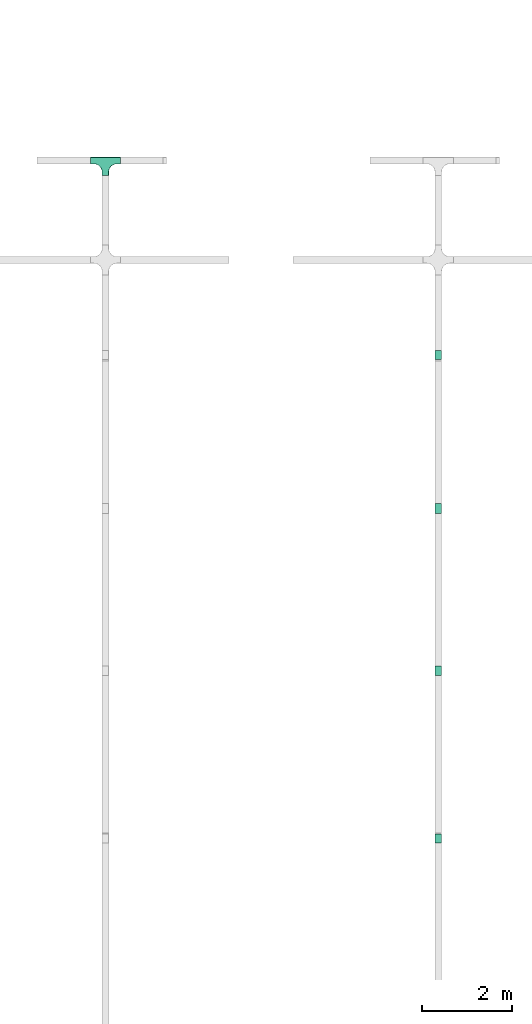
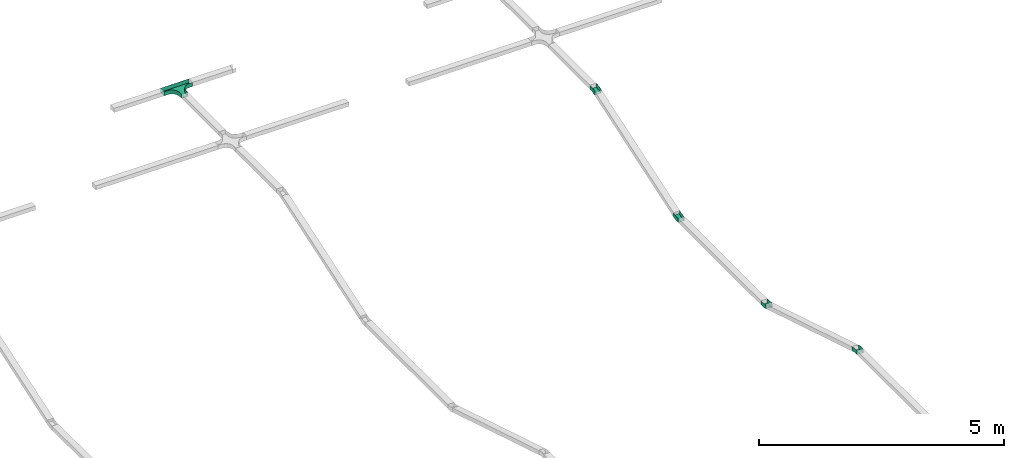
# One storey, part 44 of 197: 5 flow fittings.
"""IFC2X3 building model written with IfcOpenShell, lengths in metres."""

from ifc_helpers import new_model, entity, si_unit, converted_unit, direction, frame, origin, place, context, subcontext, project, spatial, faceted_brep, source, transform, mapped, material, type_object, type_shapes, element, save


model = new_model("IFC2X3")

# Units and contexts
model_context = context("Model", 3, precision=1e-05, world=origin(), true_north=direction((6.123031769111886e-17, 1.0)))
body_context = subcontext(model_context, "Body", "Model", "MODEL_VIEW")
ifc_project = project(units=[si_unit("LENGTHUNIT", "METRE"), converted_unit("PLANEANGLEUNIT", "DEGREE", entity("IfcPlaneAngleMeasure", 0.017453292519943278), si_unit("PLANEANGLEUNIT", "RADIAN"), dimensions=[0, 0, 0, 0, 0, 0, 0]), si_unit("AREAUNIT", "SQUARE_METRE")], contexts=[model_context])

# Site, building, storey
site_placement = place(None, origin())
site = spatial("IfcSite", under=ifc_project, at=site_placement, Name="Default", CompositionType="ELEMENT")
building_placement = place(site_placement, origin())
building = spatial("IfcBuilding", under=site, at=building_placement, CompositionType="ELEMENT")
storey_placement = place(building_placement, origin())
storey = spatial("IfcBuildingStorey", under=building, at=storey_placement, Name="Niveau 0", CompositionType="ELEMENT", Elevation=0.0)

# Flow fittings
ifc_material = material(Name="<Unnamed>")
cable_carrier_fitting_type_1 = type_object("IfcCableCarrierFittingType", Name="Chemin de câbles - Té:CDC INCENDIE", PredefinedType="NOTDEFINED", material=ifc_material)
shared_shape_1 = source(origin(), body_context, "Body", "Brep", [
    faceted_brep([(0.2084125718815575, -0.08113335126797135, 0.04999999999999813), (0.25500000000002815, -0.07500000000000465, 0.04999999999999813), (0.33500000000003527, -0.07500000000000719, 0.04999999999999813), (0.33500000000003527, -0.07246000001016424, 0.04999999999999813), (0.25500000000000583, -0.07246000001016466, 0.04999999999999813), (0.20775517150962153, -0.07867989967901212, 0.04999999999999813), (0.16373000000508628, -0.09691572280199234, 0.04999999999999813), (0.12592472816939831, -0.12592472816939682, 0.04999999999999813), (0.09691572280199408, -0.16373000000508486, 0.04999999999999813), (0.07867989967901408, -0.2077551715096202, 0.04999999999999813), (0.0724600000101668, -0.2550000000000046, 0.04999999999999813), (0.0724600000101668, -0.3350000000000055, 0.04999999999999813), (0.07500000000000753, -0.3350000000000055, 0.04999999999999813), (0.07500000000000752, -0.2550000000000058, 0.04999999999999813), (0.08113335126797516, -0.20841257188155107, 0.04999999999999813), (0.09911542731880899, -0.16500000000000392, 0.04999999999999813), (0.12772077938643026, -0.12772077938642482, 0.04999999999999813), (0.16500000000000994, -0.09911542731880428, 0.04999999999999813), (-0.25499999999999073, -0.07246000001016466, 0.04999999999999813), (-0.3349999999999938, -0.07246000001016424, 0.04999999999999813), (-0.3349999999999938, -0.07500000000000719, 0.04999999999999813), (-0.25499999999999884, -0.07500000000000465, 0.04999999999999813), (-0.20841257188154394, -0.08113335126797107, 0.04999999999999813), (-0.16499999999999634, -0.09911542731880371, 0.04999999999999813), (-0.12772077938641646, -0.12772077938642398, 0.04999999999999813), (-0.09911542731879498, -0.16500000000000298, 0.04999999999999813), (-0.08113335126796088, -0.20841257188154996, 0.04999999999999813), (-0.07499999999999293, -0.2550000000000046, 0.04999999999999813), (-0.07499999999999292, -0.3350000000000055, 0.04999999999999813), (-0.07246000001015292, -0.3350000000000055, 0.04999999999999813), (-0.0724600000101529, -0.25500000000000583, 0.04999999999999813), (-0.07867989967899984, -0.20775517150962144, 0.04999999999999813), (-0.09691572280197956, -0.1637300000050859, 0.04999999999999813), (-0.12592472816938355, -0.12592472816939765, 0.04999999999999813), (-0.16373000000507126, -0.096915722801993, 0.04999999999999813), (-0.20775517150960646, -0.07867989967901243, 0.04999999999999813), (0.33500000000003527, 0.0749999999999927, 0.04999999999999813), (-0.3349999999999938, 0.0749999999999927, 0.04999999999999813), (-0.33499999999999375, 0.0724600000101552, 0.04999999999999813), (0.33500000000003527, 0.0724600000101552, 0.04999999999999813), (-0.07499999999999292, -0.3350000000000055, -0.05000000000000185), (-0.07499999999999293, -0.2550000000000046, -0.05000000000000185), (-0.08113335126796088, -0.20841257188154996, -0.05000000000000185), (-0.09911542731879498, -0.16500000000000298, -0.05000000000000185), (-0.12772077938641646, -0.12772077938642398, -0.05000000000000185), (-0.16499999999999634, -0.09911542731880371, -0.05000000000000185), (-0.20841257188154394, -0.08113335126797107, -0.05000000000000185), (-0.2549999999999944, -0.07500000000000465, -0.05000000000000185), (-0.3349999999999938, -0.07500000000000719, -0.05000000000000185), (-0.3349999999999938, 0.0749999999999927, -0.05000000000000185), (0.33500000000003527, 0.0749999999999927, -0.05000000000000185), (0.33500000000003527, -0.07500000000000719, -0.05000000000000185), (0.25500000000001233, -0.07500000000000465, -0.05000000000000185), (0.2084125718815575, -0.08113335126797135, -0.05000000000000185), (0.16500000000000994, -0.09911542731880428, -0.05000000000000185), (0.12772077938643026, -0.12772077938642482, -0.05000000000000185), (0.09911542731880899, -0.16500000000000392, -0.05000000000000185), (0.08113335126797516, -0.20841257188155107, -0.05000000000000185), (0.07500000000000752, -0.2550000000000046, -0.05000000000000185), (0.07500000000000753, -0.3350000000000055, -0.05000000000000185), (-0.07499999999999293, -0.2550000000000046, -0.04746000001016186), (0.07246000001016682, -0.3350000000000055, -0.04746000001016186), (-0.07246000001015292, -0.3350000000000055, -0.047460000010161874), (-0.07246000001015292, -0.25500000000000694, -0.047460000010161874), (-0.07867989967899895, -0.20775517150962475, -0.04746000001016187), (-0.09691572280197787, -0.16373000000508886, -0.04746000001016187), (-0.12592472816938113, -0.12592472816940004, -0.04746000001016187), (-0.16373000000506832, -0.09691572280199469, -0.04746000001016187), (-0.20775517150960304, -0.07867989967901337, -0.04746000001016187), (-0.25499999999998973, -0.07246000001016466, -0.04746000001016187), (-0.3349999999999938, -0.07246000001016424, -0.047460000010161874), (0.33500000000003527, -0.07246000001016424, -0.047460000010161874), (0.25500000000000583, -0.07246000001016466, -0.047460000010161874), (-0.3349999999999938, 0.0724600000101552, -0.047460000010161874), (-0.255, -0.07500000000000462, -0.047460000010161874), (0.255000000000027, -0.07500000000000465, -0.04746000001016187), (0.07500000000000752, -0.2550000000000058, -0.04746000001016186), (0.33500000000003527, 0.0724600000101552, -0.04746000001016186), (0.2077551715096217, -0.07867989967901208, -0.04746000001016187), (0.16373000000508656, -0.09691572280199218, -0.04746000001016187), (0.12592472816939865, -0.12592472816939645, -0.04746000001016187), (0.09691572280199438, -0.1637300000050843, -0.04746000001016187), (0.07867989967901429, -0.20775517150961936, -0.04746000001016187), (0.07246000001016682, -0.2550000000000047, -0.04746000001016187)], [[[0, 1, 2, 3, 4, 5, 6, 7, 8, 9, 10, 11, 12, 13, 14, 15, 16, 17]], [[18, 19, 20, 21, 22, 23, 24, 25, 26, 27, 28, 29, 30, 31, 32, 33, 34, 35]], [[36, 37, 38, 39]], [[40, 41, 42, 43, 44, 45, 46, 47, 48, 49, 50, 51, 52, 53, 54, 55, 56, 57, 58, 59]], [[28, 27, 60, 41, 40]], [[29, 28, 40, 59, 12, 11, 61, 62]], [[30, 29, 62, 63]], [[31, 64, 65, 32]], [[32, 65, 66, 33]], [[63, 64, 31, 30]], [[34, 67, 68, 35]], [[35, 68, 69, 18]], [[33, 66, 67, 34]], [[19, 18, 69, 70]], [[4, 3, 71, 72]], [[38, 37, 49, 48, 20, 19, 70, 73]], [[21, 20, 48, 47, 74]], [[2, 1, 75, 52, 51]], [[22, 21, 74, 47, 46]], [[23, 22, 46, 45]], [[45, 44, 24, 23]], [[25, 24, 44, 43]], [[26, 25, 43, 42]], [[27, 26, 42, 41, 60]], [[14, 13, 76, 58, 57]], [[57, 56, 15, 14]], [[15, 56, 55, 16]], [[0, 17, 54, 53]], [[0, 53, 52, 75, 1]], [[54, 17, 16, 55]], [[3, 2, 51, 50, 36, 39, 77, 71]], [[72, 78, 5, 4]], [[79, 6, 5, 78]], [[6, 79, 80, 7]], [[8, 81, 82, 9]], [[9, 82, 83, 10]], [[7, 80, 81, 8]], [[11, 10, 83, 61]], [[13, 12, 59, 58, 76]], [[37, 36, 50, 49]], [[39, 38, 73, 77]], [[73, 70, 69, 68, 67, 66, 65, 64, 63, 62, 61, 83, 82, 81, 80, 79, 78, 72, 71, 77]]]),
])
type_shapes(cable_carrier_fitting_type_1, [shared_shape_1])
flow_fitting_1_placement = place(storey_placement, frame((-495.349980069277, 153.82491437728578, 2.75)))
element("IfcFlowFitting", 1, at=flow_fitting_1_placement, inside=storey, type_object=cable_carrier_fitting_type_1, material=ifc_material, Name="Chemin de câbles - Té:CDC INCENDIE", ObjectType="Chemin de câbles - Té:CDC INCENDIE", context=body_context, shape_type="MappedRepresentation", body=[
    mapped(shared_shape_1, transform((0.0, 0.0, 0.0), scale=1.0)),
])
cable_carrier_fitting_type_2 = type_object("IfcCableCarrierFittingType", Name="Chemin de câbles - Courbure convexe:CDC ENEDIS", PredefinedType="NOTDEFINED", material=ifc_material)
shared_shape_2 = source(origin(), body_context, "Body", "Brep", [
    faceted_brep([(-0.10489020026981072, -0.050000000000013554, -0.07500000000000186), (-0.10489020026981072, -0.050000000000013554, -0.07246000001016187), (-0.10489020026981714, 0.04746000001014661, -0.07246000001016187), (-0.10489020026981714, 0.047460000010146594, 0.07246000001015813), (-0.10489020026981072, -0.050000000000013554, 0.07246000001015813), (-0.10489020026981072, -0.050000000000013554, 0.07499999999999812), (-0.10489020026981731, 0.04999999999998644, 0.07499999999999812), (-0.10489020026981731, 0.04999999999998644, -0.07500000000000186), (-0.029890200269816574, -0.050000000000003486, 0.07499999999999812), (-0.021295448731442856, -0.04936129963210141, 0.07499999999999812), (-0.011414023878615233, -0.048626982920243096, 0.07499999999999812), (-0.00217593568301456, -0.0479404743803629, 0.07499999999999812), (0.007062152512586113, -0.0472539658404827, 0.07499999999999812), (0.016097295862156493, -0.045209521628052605, 0.07499999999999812), (0.025132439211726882, -0.04316507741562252, 0.07499999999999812), (0.03479678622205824, -0.04097825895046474, 0.07499999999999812), (0.04320272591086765, -0.03907618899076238, 0.07499999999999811), (0.11492558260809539, -0.017148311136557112, 0.0749999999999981), (0.08568841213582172, 0.07848216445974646, 0.0749999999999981), (0.013965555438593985, 0.056554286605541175, 0.07499999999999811), (-0.007718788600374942, 0.05164762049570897, 0.07499999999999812), (-0.029890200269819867, 0.04999999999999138, 0.07499999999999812), (-0.029890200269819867, 0.04999999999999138, -0.07500000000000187), (-0.007718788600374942, 0.05164762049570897, -0.07500000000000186), (0.013965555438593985, 0.05655428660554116, -0.07500000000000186), (0.08568841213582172, 0.07848216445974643, -0.07500000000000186), (0.11492558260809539, -0.017148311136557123, -0.07500000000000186), (0.04320272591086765, -0.039076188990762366, -0.07500000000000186), (0.0347967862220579, -0.040978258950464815, -0.07500000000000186), (0.025132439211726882, -0.04316507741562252, -0.07500000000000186), (0.01609729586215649, -0.045209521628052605, -0.07500000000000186), (0.007062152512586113, -0.0472539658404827, -0.07500000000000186), (-0.002819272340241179, -0.047988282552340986, -0.07500000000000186), (-0.012700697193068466, -0.04872259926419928, -0.07500000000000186), (-0.029890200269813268, -0.050000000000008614, -0.07500000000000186), (-0.029890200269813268, -0.050000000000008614, -0.07246000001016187), (-0.029890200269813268, -0.050000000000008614, 0.07246000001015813), (-0.020652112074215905, -0.049313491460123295, -0.07246000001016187), (-0.011414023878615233, -0.048626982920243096, -0.07246000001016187), (-0.0021759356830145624, -0.0479404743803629, -0.07246000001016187), (0.007062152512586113, -0.0472539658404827, -0.07246000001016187), (0.016097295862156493, -0.045209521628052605, -0.07246000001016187), (0.02513243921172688, -0.04316507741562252, -0.07246000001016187), (0.03416758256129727, -0.041120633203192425, -0.07246000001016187), (0.04320272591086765, -0.03907618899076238, -0.07246000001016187), (0.11492558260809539, -0.017148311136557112, -0.07246000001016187), (0.08643103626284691, 0.07605315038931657, -0.07246000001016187), (0.01470817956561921, 0.0541252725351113, -0.07246000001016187), (-0.007343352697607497, 0.04913552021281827, -0.07246000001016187), (-0.029890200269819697, 0.047460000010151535, -0.07246000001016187), (-0.029890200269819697, 0.04746000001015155, 0.07246000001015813), (-0.007343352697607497, 0.04913552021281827, 0.07246000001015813), (0.014708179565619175, 0.05412527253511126, 0.07246000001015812), (0.08643103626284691, 0.07605315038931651, 0.07246000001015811), (0.11492558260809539, -0.01714831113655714, 0.07246000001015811), (0.04320272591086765, -0.039076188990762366, 0.07246000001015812), (0.03416758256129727, -0.041120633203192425, 0.07246000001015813), (0.02513243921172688, -0.04316507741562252, 0.07246000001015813), (0.01609729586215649, -0.045209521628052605, 0.07246000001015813), (0.007062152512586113, -0.0472539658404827, 0.07246000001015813), (-0.0021759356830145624, -0.0479404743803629, 0.07246000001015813), (-0.011414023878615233, -0.048626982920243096, 0.07246000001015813), (-0.020652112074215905, -0.049313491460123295, 0.07246000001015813)], [[[0, 1, 2, 3, 4, 5, 6, 7]], [[5, 8, 9, 10, 11, 12, 13, 14, 15, 16, 17, 18, 19, 20, 21, 6]], [[7, 6, 21, 22]], [[7, 22, 23, 24, 25, 26, 27, 28, 29, 30, 31, 32, 33, 34, 0]], [[1, 0, 34, 35]], [[5, 4, 36, 8]], [[1, 35, 37, 38, 39, 40, 41, 42, 43, 44, 45, 46, 47, 48, 49, 2]], [[3, 2, 49, 50]], [[3, 50, 51, 52, 53, 54, 55, 56, 57, 58, 59, 60, 61, 62, 36, 4]], [[22, 21, 20, 23]], [[19, 24, 23, 20]], [[38, 37, 35, 34, 33, 32, 31, 40, 39]], [[9, 8, 36, 62, 61, 60, 59, 12, 11, 10]], [[28, 27, 44, 43, 42, 41, 40, 31, 30, 29]], [[12, 59, 58, 57, 56, 55, 16, 15, 14, 13]], [[51, 50, 49, 48]], [[51, 48, 47, 52]], [[25, 18, 17, 54, 53, 46, 45, 26]], [[24, 19, 18, 25]], [[44, 27, 26, 45]], [[16, 55, 54, 17]], [[52, 47, 46, 53]]]),
])
type_shapes(cable_carrier_fitting_type_2, [shared_shape_2])
flow_fitting_2_placement = place(storey_placement, frame((-487.9629800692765, 138.78951308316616, 2.7499999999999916), z_axis=(-1.0, 0.0, 0.0), x_axis=(0.0, 1.0, 0.0)))
element("IfcFlowFitting", 2, at=flow_fitting_2_placement, inside=storey, type_object=cable_carrier_fitting_type_2, material=ifc_material, Name="Chemin de câbles - Courbure convexe:CDC ENEDIS", ObjectType="Chemin de câbles - Courbure convexe:CDC ENEDIS", context=body_context, shape_type="MappedRepresentation", body=[
    mapped(shared_shape_2, transform((0.0, 0.0, 0.0), scale=1.0)),
])
cable_carrier_fitting_type_3 = type_object("IfcCableCarrierFittingType", Name="Chemin de câbles - Courbure concave:CDC ENEDIS", PredefinedType="NOTDEFINED", material=ifc_material)
shared_shape_3 = source(origin(), body_context, "Body", "Brep", [
    faceted_brep([(-0.10489020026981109, -0.047460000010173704, -0.07246000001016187), (-0.10489020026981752, 0.04999999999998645, -0.07246000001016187), (-0.10489020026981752, 0.04999999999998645, -0.07500000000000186), (-0.10489020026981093, -0.05000000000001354, -0.07500000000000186), (-0.10489020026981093, -0.05000000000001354, 0.07499999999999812), (-0.10489020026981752, 0.04999999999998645, 0.07499999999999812), (-0.10489020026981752, 0.04999999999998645, 0.07246000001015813), (-0.10489020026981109, -0.04746000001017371, 0.07246000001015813), (-0.02989020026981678, -0.050000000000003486, 0.07499999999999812), (0.007062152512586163, -0.047253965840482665, 0.07499999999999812), (0.04320272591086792, -0.03907618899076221, 0.07499999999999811), (0.11492558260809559, -0.01714831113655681, 0.0749999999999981), (0.08568841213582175, 0.07848216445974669, 0.0749999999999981), (0.013965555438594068, 0.05655428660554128, 0.07499999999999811), (0.0031233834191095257, 0.05410095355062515, 0.07499999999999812), (-0.00771878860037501, 0.05164762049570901, 0.07499999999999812), (-0.01880449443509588, 0.05082381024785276, 0.07499999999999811), (-0.029890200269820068, 0.04999999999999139, 0.07499999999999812), (-0.02989020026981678, -0.0500000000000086, -0.07500000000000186), (-0.02989020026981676, 0.04999999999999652, -0.07500000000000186), (-0.016575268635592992, 0.05098947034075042, -0.07500000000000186), (-0.00771878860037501, 0.05164762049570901, -0.07500000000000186), (0.0009431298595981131, 0.05360761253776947, -0.07500000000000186), (0.013965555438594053, 0.056554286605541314, -0.07500000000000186), (0.08568841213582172, 0.0784821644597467, -0.07500000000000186), (0.11492558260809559, -0.017148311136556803, -0.07500000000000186), (0.043202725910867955, -0.03907618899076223, -0.07500000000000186), (0.007062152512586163, -0.047253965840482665, -0.07500000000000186), (-0.02989020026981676, 0.04999999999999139, -0.07246000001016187), (-0.02989020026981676, 0.04999999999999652, 0.07246000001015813), (-0.02989020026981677, -0.047460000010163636, -0.07246000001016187), (0.006686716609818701, -0.04474186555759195, -0.07246000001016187), (0.0424601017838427, -0.03664717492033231, -0.07246000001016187), (0.11418295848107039, -0.014719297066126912, -0.07246000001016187), (0.08568841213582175, 0.07848216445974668, -0.07246000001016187), (0.013965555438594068, 0.05655428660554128, -0.07246000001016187), (0.0031233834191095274, 0.05410095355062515, -0.07246000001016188), (-0.00771878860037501, 0.05164762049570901, -0.07246000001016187), (-0.01880449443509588, 0.05082381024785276, -0.07246000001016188), (-0.02989020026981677, -0.047460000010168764, 0.07246000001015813), (-0.01880449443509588, 0.05082381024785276, 0.07246000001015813), (-0.00771878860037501, 0.05164762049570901, 0.07246000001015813), (0.003123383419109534, 0.05410095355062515, 0.07246000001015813), (0.013965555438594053, 0.05655428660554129, 0.07246000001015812), (0.08568841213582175, 0.07848216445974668, 0.07246000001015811), (0.11418295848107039, -0.014719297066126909, 0.07246000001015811), (0.042460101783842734, -0.036647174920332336, 0.07246000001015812), (0.006686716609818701, -0.04474186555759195, 0.07246000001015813)], [[[0, 1, 2, 3, 4, 5, 6, 7]], [[4, 8, 9, 10, 11, 12, 13, 14, 15, 16, 17, 5]], [[4, 3, 18, 8]], [[2, 19, 20, 21, 22, 23, 24, 25, 26, 27, 18, 3]], [[2, 1, 28, 19]], [[6, 5, 17, 29]], [[0, 30, 31, 32, 33, 34, 35, 36, 37, 38, 28, 1]], [[0, 7, 39, 30]], [[6, 29, 40, 41, 42, 43, 44, 45, 46, 47, 39, 7]], [[9, 8, 18, 27]], [[9, 27, 26, 10]], [[21, 20, 19, 28, 38, 37]], [[17, 16, 15, 41, 40, 29]], [[36, 35, 23, 22, 21, 37]], [[15, 14, 13, 43, 42, 41]], [[31, 30, 39, 47]], [[46, 32, 31, 47]], [[24, 34, 33, 45, 44, 12, 11, 25]], [[10, 26, 25, 11]], [[23, 35, 34, 24]], [[43, 13, 12, 44]], [[32, 46, 45, 33]]]),
])
type_shapes(cable_carrier_fitting_type_3, [shared_shape_3])
flow_fitting_3_placement = place(storey_placement, frame((-487.9629800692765, 142.5085822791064, 1.6129664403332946), z_axis=(1.0, 0.0, 0.0), x_axis=(0.0, 0.9563047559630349, -0.2923717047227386)))
element("IfcFlowFitting", 3, at=flow_fitting_3_placement, inside=storey, type_object=cable_carrier_fitting_type_3, material=ifc_material, Name="Chemin de câbles - Courbure concave:CDC ENEDIS", ObjectType="Chemin de câbles - Courbure concave:CDC ENEDIS", context=body_context, shape_type="MappedRepresentation", body=[
    mapped(shared_shape_3, transform((0.0, 0.0, 0.0), scale=1.0)),
])
cable_carrier_fitting_type_4 = type_object("IfcCableCarrierFittingType", Name="Chemin de câbles - Courbure concave:CDC ENEDIS", PredefinedType="NOTDEFINED", material=ifc_material)
shared_shape_4 = source(origin(), body_context, "Body", "Brep", [
    faceted_brep([(-0.10757218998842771, -0.047460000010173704, -0.07246000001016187), (-0.10757218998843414, 0.04999999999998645, -0.07246000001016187), (-0.10757218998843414, 0.04999999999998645, -0.07500000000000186), (-0.10757218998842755, -0.05000000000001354, -0.07500000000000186), (-0.10757218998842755, -0.05000000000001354, 0.07499999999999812), (-0.10757218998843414, 0.04999999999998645, 0.07499999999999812), (-0.10757218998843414, 0.04999999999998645, 0.07246000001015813), (-0.10757218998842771, -0.04746000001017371, 0.07246000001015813), (-0.0325721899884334, -0.050000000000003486, 0.07499999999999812), (0.007613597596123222, -0.046749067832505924, 0.07499999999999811), (0.046754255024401, -0.03708081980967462, 0.07499999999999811), (0.11787850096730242, -0.013282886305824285, 0.0749999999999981), (0.08614792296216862, 0.08154944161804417, 0.0749999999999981), (0.01502367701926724, 0.057751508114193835, 0.07499999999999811), (0.0032814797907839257, 0.05485103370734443, 0.07499999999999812), (-0.008460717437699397, 0.05195055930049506, 0.07499999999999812), (-0.020516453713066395, 0.050975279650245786, 0.07499999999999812), (-0.032572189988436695, 0.04999999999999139, 0.07499999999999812), (-0.0325721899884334, -0.0500000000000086, -0.07500000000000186), (-0.032572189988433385, 0.04999999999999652, -0.07500000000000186), (-0.01926626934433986, 0.05107641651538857, -0.07500000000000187), (-0.008460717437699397, 0.05195055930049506, -0.07500000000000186), (0.00206380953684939, 0.05455025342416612, -0.07500000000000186), (0.015023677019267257, 0.05775150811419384, -0.07500000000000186), (0.08614792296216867, 0.08154944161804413, -0.07500000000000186), (0.11787850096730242, -0.013282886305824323, -0.07500000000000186), (0.046754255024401, -0.03708081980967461, -0.07500000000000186), (0.007613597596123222, -0.046749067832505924, -0.07500000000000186), (-0.032572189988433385, 0.04999999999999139, -0.07246000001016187), (-0.032572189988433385, 0.04999999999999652, 0.07246000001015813), (-0.03257218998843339, -0.047460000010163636, -0.07246000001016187), (0.007205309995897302, -0.04424209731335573, -0.07246000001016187), (0.04594829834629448, -0.03467207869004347, -0.07246000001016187), (0.1170725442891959, -0.010874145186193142, -0.07246000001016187), (0.08614792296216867, 0.08154944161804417, -0.07246000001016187), (0.01502367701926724, 0.057751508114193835, -0.07246000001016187), (0.0032814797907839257, 0.05485103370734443, -0.07246000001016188), (-0.008460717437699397, 0.05195055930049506, -0.07246000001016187), (-0.020516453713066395, 0.050975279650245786, -0.07246000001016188), (-0.03257218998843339, -0.047460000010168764, 0.07246000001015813), (-0.020516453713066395, 0.050975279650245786, 0.07246000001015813), (-0.008460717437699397, 0.05195055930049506, 0.07246000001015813), (0.0032814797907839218, 0.054851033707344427, 0.07246000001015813), (0.01502367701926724, 0.057751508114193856, 0.07246000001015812), (0.08614792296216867, 0.08154944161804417, 0.07246000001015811), (0.11707254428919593, -0.010874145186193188, 0.07246000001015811), (0.04594829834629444, -0.0346720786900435, 0.07246000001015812), (0.007205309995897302, -0.04424209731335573, 0.07246000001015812)], [[[0, 1, 2, 3, 4, 5, 6, 7]], [[4, 8, 9, 10, 11, 12, 13, 14, 15, 16, 17, 5]], [[4, 3, 18, 8]], [[2, 19, 20, 21, 22, 23, 24, 25, 26, 27, 18, 3]], [[2, 1, 28, 19]], [[6, 5, 17, 29]], [[0, 30, 31, 32, 33, 34, 35, 36, 37, 38, 28, 1]], [[0, 7, 39, 30]], [[6, 29, 40, 41, 42, 43, 44, 45, 46, 47, 39, 7]], [[8, 18, 27, 9]], [[9, 27, 26, 10]], [[21, 20, 19, 28, 38, 37]], [[17, 16, 15, 41, 40, 29]], [[36, 35, 23, 22, 21, 37]], [[15, 14, 13, 43, 42, 41]], [[31, 30, 39, 47]], [[46, 32, 31, 47]], [[24, 34, 33, 45, 44, 12, 11, 25]], [[10, 26, 25, 11]], [[23, 35, 34, 24]], [[43, 13, 12, 44]], [[32, 46, 45, 33]]]),
])
type_shapes(cable_carrier_fitting_type_4, [shared_shape_4])
flow_fitting_4_placement = place(storey_placement, frame((-487.9629800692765, 146.09958227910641, 1.6129664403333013), z_axis=(1.0, 0.0, 0.0), x_axis=(0.0, 1.0, 0.0)))
element("IfcFlowFitting", 4, at=flow_fitting_4_placement, inside=storey, type_object=cable_carrier_fitting_type_4, material=ifc_material, Name="Chemin de câbles - Courbure concave:CDC ENEDIS", ObjectType="Chemin de câbles - Courbure concave:CDC ENEDIS", context=body_context, shape_type="MappedRepresentation", body=[
    mapped(shared_shape_4, transform((0.0, 0.0, 0.0), scale=1.0)),
])
cable_carrier_fitting_type_5 = type_object("IfcCableCarrierFittingType", Name="Chemin de câbles - Courbure convexe:CDC ENEDIS", PredefinedType="NOTDEFINED", material=ifc_material)
shared_shape_5 = source(origin(), body_context, "Body", "Brep", [
    faceted_brep([(-0.10757218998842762, -0.050000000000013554, -0.07500000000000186), (-0.10757218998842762, -0.050000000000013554, -0.07246000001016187), (-0.10757218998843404, 0.04746000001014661, -0.07246000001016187), (-0.10757218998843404, 0.047460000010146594, 0.07246000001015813), (-0.10757218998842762, -0.050000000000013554, 0.07246000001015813), (-0.10757218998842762, -0.050000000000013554, 0.07499999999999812), (-0.10757218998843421, 0.04999999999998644, 0.07499999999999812), (-0.10757218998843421, 0.04999999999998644, -0.07500000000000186), (-0.03257218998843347, -0.050000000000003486, 0.07499999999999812), (-0.023983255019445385, -0.04930517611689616, 0.07499999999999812), (-0.012479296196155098, -0.04837453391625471, 0.07499999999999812), (-0.0024328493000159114, -0.04756180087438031, 0.07499999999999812), (0.007613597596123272, -0.046749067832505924, 0.07499999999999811), (0.01739876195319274, -0.04433200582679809, 0.07499999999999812), (0.027183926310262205, -0.04191494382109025, 0.07499999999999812), (0.03838869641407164, -0.03914722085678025, 0.07499999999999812), (0.0467542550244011, -0.03708081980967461, 0.07499999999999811), (0.11787850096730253, -0.013282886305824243, 0.0749999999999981), (0.08614792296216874, 0.08154944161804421, 0.0749999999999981), (0.015023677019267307, 0.05775150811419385, 0.07499999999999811), (-0.008460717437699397, 0.05195055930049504, 0.07499999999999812), (-0.03257218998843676, 0.04999999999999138, 0.07499999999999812), (-0.03257218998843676, 0.04999999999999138, -0.07500000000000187), (-0.008460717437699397, 0.05195055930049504, -0.07500000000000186), (0.015023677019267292, 0.05775150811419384, -0.07500000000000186), (0.08614792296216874, 0.0815494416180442, -0.07500000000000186), (0.11787850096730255, -0.013282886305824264, -0.07500000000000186), (0.04675425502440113, -0.03708081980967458, -0.07500000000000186), (0.038388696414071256, -0.03914722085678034, -0.07500000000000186), (0.027183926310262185, -0.04191494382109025, -0.07500000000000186), (0.01739876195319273, -0.04433200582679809, -0.07500000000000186), (0.007613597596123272, -0.046749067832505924, -0.07500000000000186), (-0.003890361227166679, -0.047679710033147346, -0.07500000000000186), (-0.01539432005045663, -0.048610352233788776, -0.07500000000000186), (-0.03257218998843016, -0.050000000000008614, -0.07500000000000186), (-0.03257218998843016, -0.050000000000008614, -0.07246000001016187), (-0.03257218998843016, -0.050000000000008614, 0.07246000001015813), (-0.022525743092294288, -0.0491872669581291, -0.07246000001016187), (-0.012479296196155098, -0.04837453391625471, -0.07246000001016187), (-0.002432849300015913, -0.04756180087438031, -0.07246000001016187), (0.007613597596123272, -0.046749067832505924, -0.07246000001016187), (0.017398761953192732, -0.04433200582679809, -0.07246000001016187), (0.0271839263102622, -0.04191494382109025, -0.07246000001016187), (0.036969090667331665, -0.03949788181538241, -0.07246000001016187), (0.0467542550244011, -0.03708081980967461, -0.07246000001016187), (0.11787850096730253, -0.013282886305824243, -0.07246000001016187), (0.08695387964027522, 0.07914070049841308, -0.07246000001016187), (0.015829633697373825, 0.055342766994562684, -0.07246000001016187), (-0.008052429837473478, 0.049443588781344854, -0.07246000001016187), (-0.03257218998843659, 0.047460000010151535, -0.07246000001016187), (-0.03257218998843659, 0.04746000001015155, 0.07246000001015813), (-0.008052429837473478, 0.049443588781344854, 0.07246000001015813), (0.015829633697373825, 0.05534276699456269, 0.07246000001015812), (0.08695387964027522, 0.07914070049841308, 0.07246000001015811), (0.11787850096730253, -0.013282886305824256, 0.07246000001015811), (0.04675425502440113, -0.03708081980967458, 0.07246000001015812), (0.036969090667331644, -0.03949788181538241, 0.07246000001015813), (0.027183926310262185, -0.04191494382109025, 0.07246000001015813), (0.017398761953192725, -0.04433200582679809, 0.07246000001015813), (0.007613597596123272, -0.046749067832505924, 0.07246000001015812), (-0.0024328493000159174, -0.04756180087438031, 0.07246000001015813), (-0.012479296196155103, -0.04837453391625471, 0.07246000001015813), (-0.022525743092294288, -0.0491872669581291, 0.07246000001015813)], [[[0, 1, 2, 3, 4, 5, 6, 7]], [[5, 8, 9, 10, 11, 12, 13, 14, 15, 16, 17, 18, 19, 20, 21, 6]], [[7, 6, 21, 22]], [[7, 22, 23, 24, 25, 26, 27, 28, 29, 30, 31, 32, 33, 34, 0]], [[1, 0, 34, 35]], [[5, 4, 36, 8]], [[1, 35, 37, 38, 39, 40, 41, 42, 43, 44, 45, 46, 47, 48, 49, 2]], [[3, 2, 49, 50]], [[3, 50, 51, 52, 53, 54, 55, 56, 57, 58, 59, 60, 61, 62, 36, 4]], [[22, 21, 20, 23]], [[19, 24, 23, 20]], [[33, 32, 31, 40, 39, 38, 37, 35, 34]], [[61, 60, 59, 12, 11, 10, 9, 8, 36, 62]], [[42, 41, 40, 31, 30, 29, 28, 27, 44, 43]], [[12, 59, 58, 57, 56, 55, 16, 15, 14, 13]], [[51, 50, 49, 48]], [[51, 48, 47, 52]], [[25, 18, 17, 54, 53, 46, 45, 26]], [[24, 19, 18, 25]], [[44, 27, 26, 45]], [[16, 55, 54, 17]], [[52, 47, 46, 53]]]),
])
type_shapes(cable_carrier_fitting_type_5, [shared_shape_5])
flow_fitting_5_placement = place(storey_placement, frame((-487.9629800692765, 149.49780399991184, 2.7499999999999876), z_axis=(-1.0, 0.0, 0.0), x_axis=(0.0, 0.9483232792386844, 0.31730578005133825)))
element("IfcFlowFitting", 5, at=flow_fitting_5_placement, inside=storey, type_object=cable_carrier_fitting_type_5, material=ifc_material, Name="Chemin de câbles - Courbure convexe:CDC ENEDIS", ObjectType="Chemin de câbles - Courbure convexe:CDC ENEDIS", context=body_context, shape_type="MappedRepresentation", body=[
    mapped(shared_shape_5, transform((0.0, 0.0, 0.0), scale=1.0)),
])

save(model, "model.ifc")
